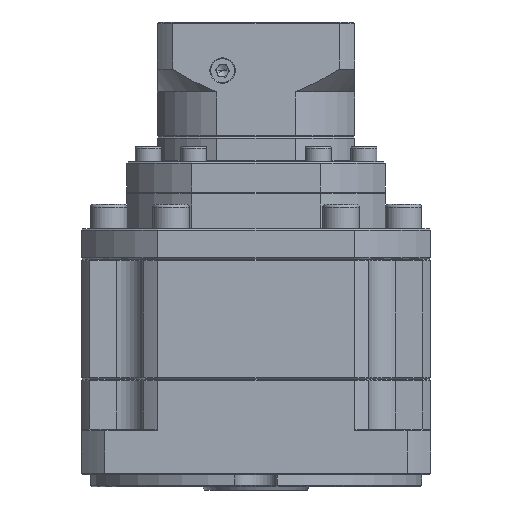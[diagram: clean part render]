
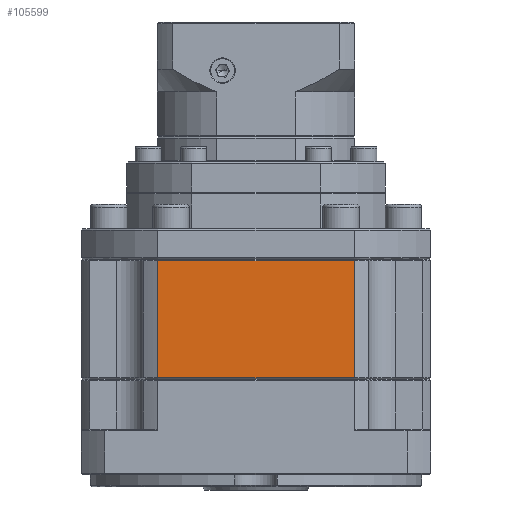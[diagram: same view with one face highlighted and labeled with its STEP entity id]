
A CAD part, front view. The second image highlights one B-rep face of the part: STEP entity #105599.
In plain terms, the highlighted planar face has unit normal (0, -1, 0).
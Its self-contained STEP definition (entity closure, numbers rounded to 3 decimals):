
#1008 = AXIS2_PLACEMENT_3D ( 'NONE', #54403, #13072, #54870 ) ;
#4504 = ORIENTED_EDGE ( 'NONE', *, *, #35399, .F. ) ;
#6837 = CARTESIAN_POINT ( 'NONE',  ( -66.637, -60.36, 170.152 ) ) ;
#7315 = VERTEX_POINT ( 'NONE', #97540 ) ;
#8386 = DIRECTION ( 'NONE',  ( 1., 0., 0. ) ) ;
#12022 = ORIENTED_EDGE ( 'NONE', *, *, #17372, .F. ) ;
#13072 = DIRECTION ( 'NONE',  ( 0., 1., 0. ) ) ;
#14020 = VERTEX_POINT ( 'NONE', #31336 ) ;
#17372 = EDGE_CURVE ( 'NONE', #87854, #14020, #98133, .T. ) ;
#20769 = CARTESIAN_POINT ( 'NONE',  ( -66.637, -60.36, 209.152 ) ) ;
#24075 = LINE ( 'NONE', #107133, #41943 ) ;
#29834 = FACE_OUTER_BOUND ( 'NONE', #68466, .T. ) ;
#30300 = DIRECTION ( 'NONE',  ( 0., 0., 1. ) ) ;
#31336 = CARTESIAN_POINT ( 'NONE',  ( -66.637, -60.36, 208.652 ) ) ;
#34712 = VECTOR ( 'NONE', #30300, 1000. ) ;
#35399 = EDGE_CURVE ( 'NONE', #7315, #55069, #24075, .T. ) ;
#35816 = EDGE_CURVE ( 'NONE', #14020, #7315, #90463, .T. ) ;
#41943 = VECTOR ( 'NONE', #67159, 1000. ) ;
#43801 = CARTESIAN_POINT ( 'NONE',  ( 23.263, -60.36, 170.152 ) ) ;
#51281 = CARTESIAN_POINT ( 'NONE',  ( -1.837, -60.36, 170.152 ) ) ;
#52608 = PLANE ( 'NONE',  #1008 ) ;
#54403 = CARTESIAN_POINT ( 'NONE',  ( 23.263, -60.36, 209.152 ) ) ;
#54870 = DIRECTION ( 'NONE',  ( -1., 0., 0. ) ) ;
#55069 = VERTEX_POINT ( 'NONE', #51281 ) ;
#67159 = DIRECTION ( 'NONE',  ( 0., 0., -1. ) ) ;
#68466 = EDGE_LOOP ( 'NONE', ( #96887, #4504, #72803, #12022 ) ) ;
#72803 = ORIENTED_EDGE ( 'NONE', *, *, #35816, .F. ) ;
#77564 = VECTOR ( 'NONE', #8386, 1000. ) ;
#83537 = EDGE_CURVE ( 'NONE', #55069, #87854, #129545, .T. ) ;
#87854 = VERTEX_POINT ( 'NONE', #6837 ) ;
#88746 = VECTOR ( 'NONE', #125775, 1000. ) ;
#90463 = LINE ( 'NONE', #91487, #77564 ) ;
#91487 = CARTESIAN_POINT ( 'NONE',  ( -34.237, -60.36, 208.652 ) ) ;
#96887 = ORIENTED_EDGE ( 'NONE', *, *, #83537, .F. ) ;
#97540 = CARTESIAN_POINT ( 'NONE',  ( -1.837, -60.36, 208.652 ) ) ;
#98133 = LINE ( 'NONE', #20769, #34712 ) ;
#105599 = ADVANCED_FACE ( 'NONE', ( #29834 ), #52608, .F. ) ;
#107133 = CARTESIAN_POINT ( 'NONE',  ( -1.837, -60.36, 209.152 ) ) ;
#125775 = DIRECTION ( 'NONE',  ( -1., 0., 0. ) ) ;
#129545 = LINE ( 'NONE', #43801, #88746 ) ;
